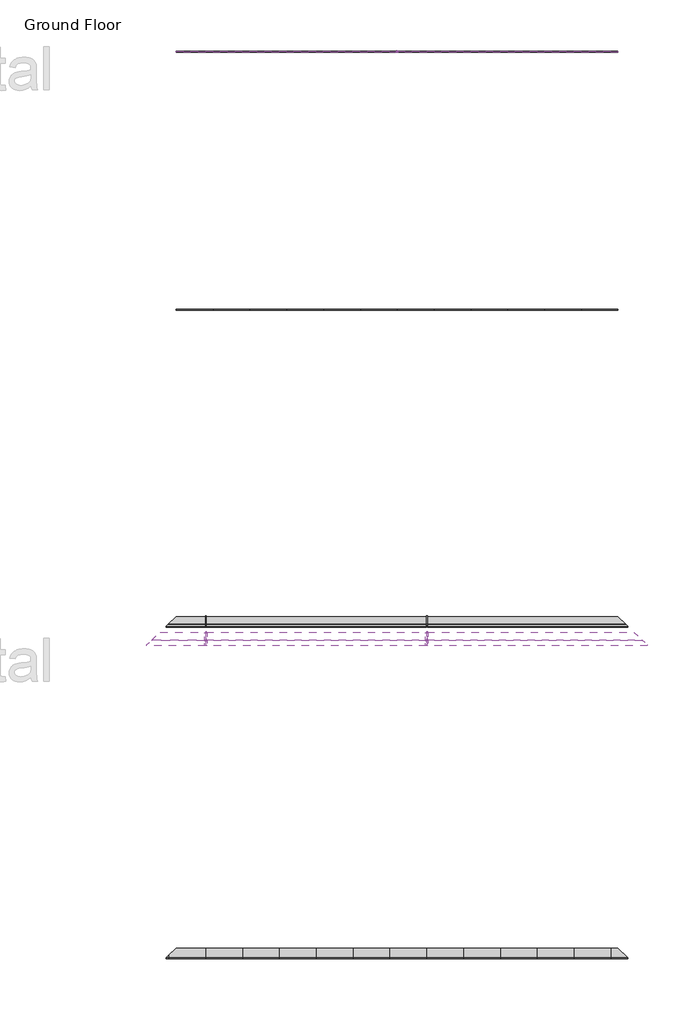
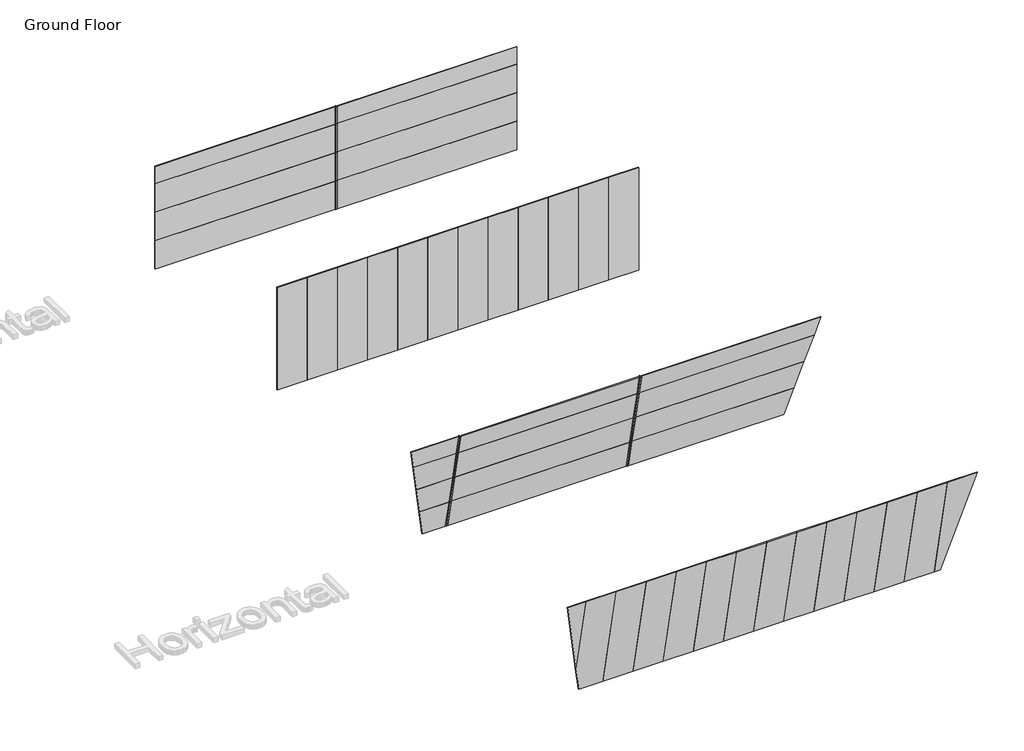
# One storey, part 1 of 5: 46 plates, 12 members.
"""IFC4 building model written with IfcOpenShell, lengths in millimetres."""

from ifc_helpers import new_model, si_unit, origin, place, context, project, spatial, transform, mapped, element, save
from components import rectangular_mullion_pi_mullion_20gap_50depth_70width_e4301adc, rectangular_mullion_pi_mullion_20gap_50depth_70width_4eeb9ecc, rectangular_mullion_pi_mullion_20gap_50depth_70width_811ff51a, rectangular_mullion_pi_mullion_20gap_50depth_70width_73b7af1a, system_panel_71e9b80a, system_panel_62c5c3ff, system_panel_d7ae92b4, system_panel_6abbdd9c, system_panel_bb43c466, system_panel_7ccdb5df, system_panel_552d239f, system_panel_be0a1c93, system_panel_59079890, system_panel_06980da2, system_panel_16ee6be8, system_panel_9cca09ca, system_panel_3975b668, system_panel_851a3a75, system_panel_065bc8c0, system_panel_c86d8e95, system_panel_ed235954

model = new_model("IFC4")

# Units and contexts
model_context = context("Model", 3, world=origin())
ifc_project = project(units=[si_unit("LENGTHUNIT", "METRE", prefix="MILLI")], contexts=[model_context])

# Site, building, storey
site = spatial("IfcSite", under=ifc_project)
building = spatial("IfcBuilding", under=site)
storey = spatial("IfcBuildingStorey", under=building, Name="Ground Floor", Elevation=0.0)

# Members
placement = place(None, origin())
rectangular_mullion_pi_mullion_20gap_50depth_70width_shape = rectangular_mullion_pi_mullion_20gap_50depth_70width_e4301adc(model_context)
element("IfcMember", 1, ObjectType="Rectangular Mullion : PI-Mullion - 20Gap-50Depth-70Width", at=placement, inside=storey, context=model_context, shape_type="MappedRepresentation", body=[
    mapped(rectangular_mullion_pi_mullion_20gap_50depth_70width_shape, transform((-44997.533429, 4866.6714822, 0.0), x_axis=(1.0, 0.0, 0.0), y_axis=(0.0, -1.0, 0.0), z_axis=(0.0, 0.0, -1.0))),
])
element("IfcMember", 2, ObjectType="Rectangular Mullion : PI-Mullion - 20Gap-50Depth-70Width", at=placement, inside=storey, context=model_context, shape_type="MappedRepresentation", body=[
    mapped(rectangular_mullion_pi_mullion_20gap_50depth_70width_shape, transform((-44997.533429, 4866.6714822, 1000.0), x_axis=(1.0, 0.0, 0.0), y_axis=(0.0, -1.0, 0.0), z_axis=(0.0, 0.0, -1.0))),
])
element("IfcMember", 3, ObjectType="Rectangular Mullion : PI-Mullion - 20Gap-50Depth-70Width", at=placement, inside=storey, context=model_context, shape_type="MappedRepresentation", body=[
    mapped(rectangular_mullion_pi_mullion_20gap_50depth_70width_shape, transform((-44997.533429, 4866.6714822, 2000.0), x_axis=(1.0, 0.0, 0.0), y_axis=(0.0, -1.0, 0.0), z_axis=(0.0, 0.0, -1.0))),
])
rectangular_mullion_pi_mullion_20gap_50depth_70width_2_shape = rectangular_mullion_pi_mullion_20gap_50depth_70width_4eeb9ecc(model_context)
element("IfcMember", 4, ObjectType="Rectangular Mullion : PI-Mullion - 20Gap-50Depth-70Width", at=placement, inside=storey, context=model_context, shape_type="MappedRepresentation", body=[
    mapped(rectangular_mullion_pi_mullion_20gap_50depth_70width_2_shape, transform((-44997.533429, 4866.6714822, 3000.0), x_axis=(1.0, 0.0, 0.0), y_axis=(0.0, -1.0, 0.0), z_axis=(0.0, 0.0, -1.0))),
])
rectangular_mullion_pi_mullion_20gap_50depth_70width_3_shape = rectangular_mullion_pi_mullion_20gap_50depth_70width_811ff51a(model_context)
element("IfcMember", 5, ObjectType="Rectangular Mullion : PI-Mullion - 20Gap-50Depth-70Width", at=placement, inside=storey, context=model_context, shape_type="MappedRepresentation", body=[
    mapped(rectangular_mullion_pi_mullion_20gap_50depth_70width_3_shape, transform((-44187.533429, -10888.0105073, 1956.5374639), x_axis=(-1.0, 0.0, 0.0), y_axis=(0.0, -0.978268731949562, -0.2073409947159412), z_axis=(0.0, -0.2073409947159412, 0.978268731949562))),
])
element("IfcMember", 6, ObjectType="Rectangular Mullion : PI-Mullion - 20Gap-50Depth-70Width", at=placement, inside=storey, context=model_context, shape_type="MappedRepresentation", body=[
    mapped(rectangular_mullion_pi_mullion_20gap_50depth_70width_3_shape, transform((-50187.533429, -10888.0105073, 1956.5374639), x_axis=(-1.0, 0.0, 0.0), y_axis=(0.0, -0.978268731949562, -0.2073409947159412), z_axis=(0.0, -0.2073409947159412, 0.978268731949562))),
])
element("IfcMember", 7, ObjectType="Rectangular Mullion : PI-Mullion - 20Gap-50Depth-70Width", at=placement, inside=storey, context=model_context, shape_type="MappedRepresentation", body=[
    mapped(rectangular_mullion_pi_mullion_20gap_50depth_70width_3_shape, transform((-44187.533429, -11095.351502, 2934.8061958), x_axis=(-1.0, 0.0, 0.0), y_axis=(0.0, -0.978268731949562, -0.2073409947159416), z_axis=(0.0, -0.20734099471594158, 0.9782687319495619))),
])
element("IfcMember", 8, ObjectType="Rectangular Mullion : PI-Mullion - 20Gap-50Depth-70Width", at=placement, inside=storey, context=model_context, shape_type="MappedRepresentation", body=[
    mapped(rectangular_mullion_pi_mullion_20gap_50depth_70width_3_shape, transform((-50187.533429, -11095.351502, 2934.8061958), x_axis=(-1.0, 0.0, 0.0), y_axis=(0.0, -0.978268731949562, -0.2073409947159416), z_axis=(0.0, -0.20734099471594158, 0.9782687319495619))),
])
rectangular_mullion_pi_mullion_20gap_50depth_70width_4_shape = rectangular_mullion_pi_mullion_20gap_50depth_70width_73b7af1a(model_context)
element("IfcMember", 9, ObjectType="Rectangular Mullion : PI-Mullion - 20Gap-50Depth-70Width", at=placement, inside=storey, context=model_context, shape_type="MappedRepresentation", body=[
    mapped(rectangular_mullion_pi_mullion_20gap_50depth_70width_4_shape, transform((-44187.533429, -11236.337246, 3600.0), x_axis=(-1.0, 0.0, 0.0), y_axis=(0.0, -0.978268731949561, -0.20734099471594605), z_axis=(0.0, -0.20734099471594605, 0.978268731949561))),
])
element("IfcMember", 10, ObjectType="Rectangular Mullion : PI-Mullion - 20Gap-50Depth-70Width", at=placement, inside=storey, context=model_context, shape_type="MappedRepresentation", body=[
    mapped(rectangular_mullion_pi_mullion_20gap_50depth_70width_4_shape, transform((-50187.533429, -11236.337246, 3600.0), x_axis=(-1.0, 0.0, 0.0), y_axis=(0.0, -0.978268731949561, -0.20734099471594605), z_axis=(0.0, -0.20734099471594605, 0.978268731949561))),
])
element("IfcMember", 11, ObjectType="Rectangular Mullion : PI-Mullion - 20Gap-50Depth-70Width", at=placement, inside=storey, context=model_context, shape_type="MappedRepresentation", body=[
    mapped(rectangular_mullion_pi_mullion_20gap_50depth_70width_3_shape, transform((-44187.533429, -10680.6695126, 978.2687319), x_axis=(-1.0, 0.0, 0.0), y_axis=(0.0, -0.9782687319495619, -0.20734099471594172), z_axis=(0.0, -0.20734099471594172, 0.9782687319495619))),
])
element("IfcMember", 12, ObjectType="Rectangular Mullion : PI-Mullion - 20Gap-50Depth-70Width", at=placement, inside=storey, context=model_context, shape_type="MappedRepresentation", body=[
    mapped(rectangular_mullion_pi_mullion_20gap_50depth_70width_3_shape, transform((-50187.533429, -10680.6695126, 978.2687319), x_axis=(-1.0, 0.0, 0.0), y_axis=(0.0, -0.9782687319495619, -0.20734099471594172), z_axis=(0.0, -0.20734099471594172, 0.9782687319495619))),
])

# Plates
system_panel_shape = system_panel_71e9b80a(model_context)
element("IfcPlate", 13, ObjectType="System Panel : Purline 25mm Vertical - Plain RHEA - PUR", at=placement, inside=storey, context=model_context, shape_type="MappedRepresentation", body=[
    mapped(system_panel_shape, transform((-50497.533429, -2133.3285178, 0.0), x_axis=(1.0, 0.0, 0.0), y_axis=(0.0, 1.0, 0.0), z_axis=(0.0, 0.0, 1.0))),
])
element("IfcPlate", 14, ObjectType="System Panel : Purline 25mm Vertical - Plain RHEA - PUR", at=placement, inside=storey, context=model_context, shape_type="MappedRepresentation", body=[
    mapped(system_panel_shape, transform((-47497.533429, -2133.3285178, 0.0), x_axis=(1.0, 0.0, 0.0), y_axis=(0.0, 1.0, 0.0), z_axis=(0.0, 0.0, 1.0))),
])
element("IfcPlate", 15, ObjectType="System Panel : Purline 25mm Vertical - Plain RHEA - PUR", at=placement, inside=storey, context=model_context, shape_type="MappedRepresentation", body=[
    mapped(system_panel_shape, transform((-46497.533429, -2133.3285178, 0.0), x_axis=(1.0, 0.0, 0.0), y_axis=(0.0, 1.0, 0.0), z_axis=(0.0, 0.0, 1.0))),
])
element("IfcPlate", 16, ObjectType="System Panel : Purline 25mm Vertical - Plain RHEA - PUR", at=placement, inside=storey, context=model_context, shape_type="MappedRepresentation", body=[
    mapped(system_panel_shape, transform((-45497.533429, -2133.3285178, 0.0), x_axis=(1.0, 0.0, 0.0), y_axis=(0.0, 1.0, 0.0), z_axis=(0.0, 0.0, 1.0))),
])
element("IfcPlate", 17, ObjectType="System Panel : Purline 25mm Vertical - Plain RHEA - PUR", at=placement, inside=storey, context=model_context, shape_type="MappedRepresentation", body=[
    mapped(system_panel_shape, transform((-44497.533429, -2133.3285178, 0.0), x_axis=(1.0, 0.0, 0.0), y_axis=(0.0, 1.0, 0.0), z_axis=(0.0, 0.0, 1.0))),
])
element("IfcPlate", 18, ObjectType="System Panel : Purline 25mm Vertical - Plain RHEA - PUR", at=placement, inside=storey, context=model_context, shape_type="MappedRepresentation", body=[
    mapped(system_panel_shape, transform((-43497.533429, -2133.3285178, 0.0), x_axis=(1.0, 0.0, 0.0), y_axis=(0.0, 1.0, 0.0), z_axis=(0.0, 0.0, 1.0))),
])
element("IfcPlate", 19, ObjectType="System Panel : Purline 25mm Vertical - Plain RHEA - PUR", at=placement, inside=storey, context=model_context, shape_type="MappedRepresentation", body=[
    mapped(system_panel_shape, transform((-42497.533429, -2133.3285178, 0.0), x_axis=(1.0, 0.0, 0.0), y_axis=(0.0, 1.0, 0.0), z_axis=(0.0, 0.0, 1.0))),
])
element("IfcPlate", 20, ObjectType="System Panel : Purline 25mm Vertical - Plain RHEA - PUR", at=placement, inside=storey, context=model_context, shape_type="MappedRepresentation", body=[
    mapped(system_panel_shape, transform((-41497.533429, -2133.3285178, 0.0), x_axis=(1.0, 0.0, 0.0), y_axis=(0.0, 1.0, 0.0), z_axis=(0.0, 0.0, 1.0))),
])
element("IfcPlate", 21, ObjectType="System Panel : Purline 25mm Vertical - Plain RHEA - PUR", at=placement, inside=storey, context=model_context, shape_type="MappedRepresentation", body=[
    mapped(system_panel_shape, transform((-40497.533429, -2133.3285178, 0.0), x_axis=(1.0, 0.0, 0.0), y_axis=(0.0, 1.0, 0.0), z_axis=(0.0, 0.0, 1.0))),
])
element("IfcPlate", 22, ObjectType="System Panel : Purline 25mm Vertical - Plain RHEA - PUR", at=placement, inside=storey, context=model_context, shape_type="MappedRepresentation", body=[
    mapped(system_panel_shape, transform((-48497.533429, -2133.3285178, 0.0), x_axis=(1.0, 0.0, 0.0), y_axis=(0.0, 1.0, 0.0), z_axis=(0.0, 0.0, 1.0))),
])
element("IfcPlate", 23, ObjectType="System Panel : Purline 25mm Vertical - Plain RHEA - PUR", at=placement, inside=storey, context=model_context, shape_type="MappedRepresentation", body=[
    mapped(system_panel_shape, transform((-39497.533429, -2133.3285178, 0.0), x_axis=(1.0, 0.0, 0.0), y_axis=(0.0, 1.0, 0.0), z_axis=(0.0, 0.0, 1.0))),
])
element("IfcPlate", 24, ObjectType="System Panel : Purline 25mm Vertical - Plain RHEA - PUR", at=placement, inside=storey, context=model_context, shape_type="MappedRepresentation", body=[
    mapped(system_panel_shape, transform((-49497.533429, -2133.3285178, 0.0), x_axis=(1.0, 0.0, 0.0), y_axis=(0.0, 1.0, 0.0), z_axis=(0.0, 0.0, 1.0))),
])
system_panel_2_shape = system_panel_62c5c3ff(model_context)
element("IfcPlate", 25, ObjectType="System Panel : Purline 25mm Horizontal - Plain RHEA - PUR", at=placement, inside=storey, context=model_context, shape_type="MappedRepresentation", body=[
    mapped(system_panel_2_shape, transform((-48002.533429, 4866.6714822, 0.0), x_axis=(1.0, 0.0, 0.0), y_axis=(0.0, 1.0, 0.0), z_axis=(0.0, 0.0, 1.0))),
])
element("IfcPlate", 26, ObjectType="System Panel : Purline 25mm Horizontal - Plain RHEA - PUR", at=placement, inside=storey, context=model_context, shape_type="MappedRepresentation", body=[
    mapped(system_panel_2_shape, transform((-48002.533429, 4866.6714822, 1000.0), x_axis=(1.0, 0.0, 0.0), y_axis=(0.0, 1.0, 0.0), z_axis=(0.0, 0.0, 1.0))),
])
element("IfcPlate", 27, ObjectType="System Panel : Purline 25mm Horizontal - Plain RHEA - PUR", at=placement, inside=storey, context=model_context, shape_type="MappedRepresentation", body=[
    mapped(system_panel_2_shape, transform((-48002.533429, 4866.6714822, 2000.0), x_axis=(1.0, 0.0, 0.0), y_axis=(0.0, 1.0, 0.0), z_axis=(0.0, 0.0, 1.0))),
])
element("IfcPlate", 28, ObjectType="System Panel : Purline 25mm Horizontal - Plain RHEA - PUR", at=placement, inside=storey, context=model_context, shape_type="MappedRepresentation", body=[
    mapped(system_panel_2_shape, transform((-41992.533429, 4866.6714822, 0.0), x_axis=(1.0, 0.0, 0.0), y_axis=(0.0, 1.0, 0.0), z_axis=(0.0, 0.0, 1.0))),
])
element("IfcPlate", 29, ObjectType="System Panel : Purline 25mm Horizontal - Plain RHEA - PUR", at=placement, inside=storey, context=model_context, shape_type="MappedRepresentation", body=[
    mapped(system_panel_2_shape, transform((-41992.533429, 4866.6714822, 1000.0), x_axis=(1.0, 0.0, 0.0), y_axis=(0.0, 1.0, 0.0), z_axis=(0.0, 0.0, 1.0))),
])
element("IfcPlate", 30, ObjectType="System Panel : Purline 25mm Horizontal - Plain RHEA - PUR", at=placement, inside=storey, context=model_context, shape_type="MappedRepresentation", body=[
    mapped(system_panel_2_shape, transform((-41992.533429, 4866.6714822, 2000.0), x_axis=(1.0, 0.0, 0.0), y_axis=(0.0, 1.0, 0.0), z_axis=(0.0, 0.0, 1.0))),
])
system_panel_3_shape = system_panel_d7ae92b4(model_context)
element("IfcPlate", 31, ObjectType="System Panel : Purline 25mm Horizontal - Plain RHEA - PUR", at=placement, inside=storey, context=model_context, shape_type="MappedRepresentation", body=[
    mapped(system_panel_3_shape, transform((-48002.533429, 4866.6714822, 3000.0), x_axis=(1.0, 0.0, 0.0), y_axis=(0.0, 1.0, 0.0), z_axis=(0.0, 0.0, 1.0))),
])
element("IfcPlate", 32, ObjectType="System Panel : Purline 25mm Horizontal - Plain RHEA - PUR", at=placement, inside=storey, context=model_context, shape_type="MappedRepresentation", body=[
    mapped(system_panel_3_shape, transform((-41992.533429, 4866.6714822, 3000.0), x_axis=(1.0, 0.0, 0.0), y_axis=(0.0, 1.0, 0.0), z_axis=(0.0, 0.0, 1.0))),
])
system_panel_4_shape = system_panel_6abbdd9c(model_context)
element("IfcPlate", 33, ObjectType="System Panel : Purline 25mm Horizontal - Plain RHEA - PUR", at=placement, inside=storey, context=model_context, shape_type="MappedRepresentation", body=[
    mapped(system_panel_4_shape, transform((-41261.4438516, -10888.0105073, 1956.5374639), x_axis=(-1.0, 0.0, 0.0), y_axis=(0.0, -0.978268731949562, -0.20734099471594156), z_axis=(0.0, -0.20734099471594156, 0.978268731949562))),
])
system_panel_5_shape = system_panel_bb43c466(model_context)
element("IfcPlate", 34, ObjectType="System Panel : Purline 25mm Horizontal - Plain RHEA - PUR", at=placement, inside=storey, context=model_context, shape_type="MappedRepresentation", body=[
    mapped(system_panel_5_shape, transform((-47187.533429, -10473.3285178, 0.0), x_axis=(-1.0, 0.0, 0.0), y_axis=(0.0, -0.978268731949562, -0.20734099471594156), z_axis=(0.0, -0.20734099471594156, 0.978268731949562))),
])
element("IfcPlate", 35, ObjectType="System Panel : Purline 25mm Horizontal - Plain RHEA - PUR", at=placement, inside=storey, context=model_context, shape_type="MappedRepresentation", body=[
    mapped(system_panel_5_shape, transform((-47187.533429, -10680.6695126, 978.2687319), x_axis=(-1.0, 0.0, 0.0), y_axis=(0.0, -0.978268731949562, -0.20734099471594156), z_axis=(0.0, -0.20734099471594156, 0.978268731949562))),
])
element("IfcPlate", 36, ObjectType="System Panel : Purline 25mm Horizontal - Plain RHEA - PUR", at=placement, inside=storey, context=model_context, shape_type="MappedRepresentation", body=[
    mapped(system_panel_5_shape, transform((-47187.533429, -10888.0105073, 1956.5374639), x_axis=(-1.0, 0.0, 0.0), y_axis=(0.0, -0.978268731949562, -0.20734099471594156), z_axis=(0.0, -0.20734099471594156, 0.978268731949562))),
])
system_panel_6_shape = system_panel_7ccdb5df(model_context)
element("IfcPlate", 37, ObjectType="System Panel : Purline 25mm Horizontal - Plain RHEA - PUR", at=placement, inside=storey, context=model_context, shape_type="MappedRepresentation", body=[
    mapped(system_panel_6_shape, transform((-50923.6230063, -10888.0105073, 1956.5374639), x_axis=(-1.0, 0.0, 0.0), y_axis=(0.0, -0.978268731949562, -0.20734099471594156), z_axis=(0.0, -0.20734099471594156, 0.978268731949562))),
])
system_panel_7_shape = system_panel_552d239f(model_context)
element("IfcPlate", 38, ObjectType="System Panel : Purline 25mm Horizontal - Plain RHEA - PUR", at=placement, inside=storey, context=model_context, shape_type="MappedRepresentation", body=[
    mapped(system_panel_7_shape, transform((-41187.533429, -11095.351502, 2934.8061958), x_axis=(-1.0, 0.0, 0.0), y_axis=(0.0, -0.978268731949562, -0.20734099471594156), z_axis=(0.0, -0.20734099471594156, 0.978268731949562))),
])
system_panel_8_shape = system_panel_be0a1c93(model_context)
element("IfcPlate", 39, ObjectType="System Panel : Purline 25mm Horizontal - Plain RHEA - PUR", at=placement, inside=storey, context=model_context, shape_type="MappedRepresentation", body=[
    mapped(system_panel_8_shape, transform((-47187.533429, -11095.351502, 2934.8061958), x_axis=(-1.0, 0.0, 0.0), y_axis=(0.0, -0.978268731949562, -0.20734099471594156), z_axis=(0.0, -0.20734099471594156, 0.978268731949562))),
])
system_panel_9_shape = system_panel_59079890(model_context)
element("IfcPlate", 40, ObjectType="System Panel : Purline 25mm Horizontal - Plain RHEA - PUR", at=placement, inside=storey, context=model_context, shape_type="MappedRepresentation", body=[
    mapped(system_panel_9_shape, transform((-50997.533429, -11095.351502, 2934.8061958), x_axis=(-1.0, 0.0, 0.0), y_axis=(0.0, -0.978268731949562, -0.20734099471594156), z_axis=(0.0, -0.20734099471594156, 0.978268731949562))),
])
system_panel_10_shape = system_panel_06980da2(model_context)
element("IfcPlate", 41, ObjectType="System Panel : Purline 25mm Vertical - Plain RHEA - PUR", at=placement, inside=storey, context=model_context, shape_type="MappedRepresentation", body=[
    mapped(system_panel_10_shape, transform((-38697.533429, -19473.3285178, 0.0), x_axis=(-1.0, 0.0, 0.0), y_axis=(0.0, -0.978268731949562, -0.20734099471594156), z_axis=(0.0, -0.20734099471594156, 0.978268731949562))),
])
system_panel_11_shape = system_panel_16ee6be8(model_context)
element("IfcPlate", 42, ObjectType="System Panel : Purline 25mm Vertical - Plain RHEA - PUR", at=placement, inside=storey, context=model_context, shape_type="MappedRepresentation", body=[
    mapped(system_panel_11_shape, transform((-39697.533429, -19473.3285178, 0.0), x_axis=(-1.0, 0.0, 0.0), y_axis=(0.0, -0.978268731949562, -0.20734099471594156), z_axis=(0.0, -0.20734099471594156, 0.978268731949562))),
])
element("IfcPlate", 43, ObjectType="System Panel : Purline 25mm Vertical - Plain RHEA - PUR", at=placement, inside=storey, context=model_context, shape_type="MappedRepresentation", body=[
    mapped(system_panel_11_shape, transform((-40697.533429, -19473.3285178, 0.0), x_axis=(-1.0, 0.0, 0.0), y_axis=(0.0, -0.978268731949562, -0.20734099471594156), z_axis=(0.0, -0.20734099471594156, 0.978268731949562))),
])
element("IfcPlate", 44, ObjectType="System Panel : Purline 25mm Vertical - Plain RHEA - PUR", at=placement, inside=storey, context=model_context, shape_type="MappedRepresentation", body=[
    mapped(system_panel_11_shape, transform((-41697.533429, -19473.3285178, 0.0), x_axis=(-1.0, 0.0, 0.0), y_axis=(0.0, -0.978268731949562, -0.20734099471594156), z_axis=(0.0, -0.20734099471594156, 0.978268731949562))),
])
element("IfcPlate", 45, ObjectType="System Panel : Purline 25mm Vertical - Plain RHEA - PUR", at=placement, inside=storey, context=model_context, shape_type="MappedRepresentation", body=[
    mapped(system_panel_11_shape, transform((-42697.533429, -19473.3285178, 0.0), x_axis=(-1.0, 0.0, 0.0), y_axis=(0.0, -0.978268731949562, -0.20734099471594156), z_axis=(0.0, -0.20734099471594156, 0.978268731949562))),
])
element("IfcPlate", 46, ObjectType="System Panel : Purline 25mm Vertical - Plain RHEA - PUR", at=placement, inside=storey, context=model_context, shape_type="MappedRepresentation", body=[
    mapped(system_panel_11_shape, transform((-43697.533429, -19473.3285178, 0.0), x_axis=(-1.0, 0.0, 0.0), y_axis=(0.0, -0.978268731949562, -0.20734099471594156), z_axis=(0.0, -0.20734099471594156, 0.978268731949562))),
])
element("IfcPlate", 47, ObjectType="System Panel : Purline 25mm Vertical - Plain RHEA - PUR", at=placement, inside=storey, context=model_context, shape_type="MappedRepresentation", body=[
    mapped(system_panel_11_shape, transform((-44697.533429, -19473.3285178, 0.0), x_axis=(-1.0, 0.0, 0.0), y_axis=(0.0, -0.978268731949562, -0.20734099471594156), z_axis=(0.0, -0.20734099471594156, 0.978268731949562))),
])
element("IfcPlate", 48, ObjectType="System Panel : Purline 25mm Vertical - Plain RHEA - PUR", at=placement, inside=storey, context=model_context, shape_type="MappedRepresentation", body=[
    mapped(system_panel_11_shape, transform((-45697.533429, -19473.3285178, 0.0), x_axis=(-1.0, 0.0, 0.0), y_axis=(0.0, -0.978268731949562, -0.20734099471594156), z_axis=(0.0, -0.20734099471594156, 0.978268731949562))),
])
element("IfcPlate", 49, ObjectType="System Panel : Purline 25mm Vertical - Plain RHEA - PUR", at=placement, inside=storey, context=model_context, shape_type="MappedRepresentation", body=[
    mapped(system_panel_11_shape, transform((-46697.533429, -19473.3285178, 0.0), x_axis=(-1.0, 0.0, 0.0), y_axis=(0.0, -0.978268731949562, -0.20734099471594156), z_axis=(0.0, -0.20734099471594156, 0.978268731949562))),
])
element("IfcPlate", 50, ObjectType="System Panel : Purline 25mm Vertical - Plain RHEA - PUR", at=placement, inside=storey, context=model_context, shape_type="MappedRepresentation", body=[
    mapped(system_panel_11_shape, transform((-47697.533429, -19473.3285178, 0.0), x_axis=(-1.0, 0.0, 0.0), y_axis=(0.0, -0.978268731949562, -0.20734099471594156), z_axis=(0.0, -0.20734099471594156, 0.978268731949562))),
])
element("IfcPlate", 51, ObjectType="System Panel : Purline 25mm Vertical - Plain RHEA - PUR", at=placement, inside=storey, context=model_context, shape_type="MappedRepresentation", body=[
    mapped(system_panel_11_shape, transform((-48697.533429, -19473.3285178, 0.0), x_axis=(-1.0, 0.0, 0.0), y_axis=(0.0, -0.978268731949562, -0.20734099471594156), z_axis=(0.0, -0.20734099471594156, 0.978268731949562))),
])
element("IfcPlate", 52, ObjectType="System Panel : Purline 25mm Vertical - Plain RHEA - PUR", at=placement, inside=storey, context=model_context, shape_type="MappedRepresentation", body=[
    mapped(system_panel_11_shape, transform((-49697.533429, -19473.3285178, 0.0), x_axis=(-1.0, 0.0, 0.0), y_axis=(0.0, -0.978268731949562, -0.20734099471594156), z_axis=(0.0, -0.20734099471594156, 0.978268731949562))),
])
system_panel_12_shape = system_panel_9cca09ca(model_context)
element("IfcPlate", 53, ObjectType="System Panel : Purline 25mm Vertical - Plain RHEA - PUR", at=placement, inside=storey, context=model_context, shape_type="MappedRepresentation", body=[
    mapped(system_panel_12_shape, transform((-50697.533429, -19473.3285178, 0.0), x_axis=(-1.0, 0.0, 0.0), y_axis=(0.0, -0.978268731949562, -0.20734099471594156), z_axis=(0.0, -0.20734099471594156, 0.978268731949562))),
])
system_panel_13_shape = system_panel_3975b668(model_context)
element("IfcPlate", 54, ObjectType="System Panel : Purline 25mm Vertical - Plain RHEA - PUR", at=placement, inside=storey, context=model_context, shape_type="MappedRepresentation", body=[
    mapped(system_panel_13_shape, transform((-51497.533429, -19664.0806999, 900.0), x_axis=(-1.0, 0.0, 0.0), y_axis=(0.0, -0.978268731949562, -0.20734099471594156), z_axis=(0.0, -0.20734099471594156, 0.978268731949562))),
])
system_panel_14_shape = system_panel_851a3a75(model_context)
element("IfcPlate", 55, ObjectType="System Panel : Purline 25mm Horizontal - Plain RHEA - PUR", at=placement, inside=storey, context=model_context, shape_type="MappedRepresentation", body=[
    mapped(system_panel_14_shape, transform((-41478.8369032, -10473.3285178, 0.0), x_axis=(-1.0, 0.0, 0.0), y_axis=(0.0, -0.978268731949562, -0.20734099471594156), z_axis=(0.0, -0.20734099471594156, 0.978268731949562))),
])
system_panel_15_shape = system_panel_065bc8c0(model_context)
element("IfcPlate", 56, ObjectType="System Panel : Purline 25mm Horizontal - Plain RHEA - PUR", at=placement, inside=storey, context=model_context, shape_type="MappedRepresentation", body=[
    mapped(system_panel_15_shape, transform((-50706.2299547, -10473.3285178, 0.0), x_axis=(-1.0, 0.0, 0.0), y_axis=(0.0, -0.978268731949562, -0.20734099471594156), z_axis=(0.0, -0.20734099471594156, 0.978268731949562))),
])
system_panel_16_shape = system_panel_c86d8e95(model_context)
element("IfcPlate", 57, ObjectType="System Panel : Purline 25mm Horizontal - Plain RHEA - PUR", at=placement, inside=storey, context=model_context, shape_type="MappedRepresentation", body=[
    mapped(system_panel_16_shape, transform((-41370.1403774, -10680.6695126, 978.2687319), x_axis=(-1.0, 0.0, 0.0), y_axis=(0.0, -0.978268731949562, -0.20734099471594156), z_axis=(0.0, -0.20734099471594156, 0.978268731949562))),
])
system_panel_17_shape = system_panel_ed235954(model_context)
element("IfcPlate", 58, ObjectType="System Panel : Purline 25mm Horizontal - Plain RHEA - PUR", at=placement, inside=storey, context=model_context, shape_type="MappedRepresentation", body=[
    mapped(system_panel_17_shape, transform((-50814.9264805, -10680.6695126, 978.2687319), x_axis=(-1.0, 0.0, 0.0), y_axis=(0.0, -0.978268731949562, -0.20734099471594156), z_axis=(0.0, -0.20734099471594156, 0.978268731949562))),
])

save(model, "model.ifc")
